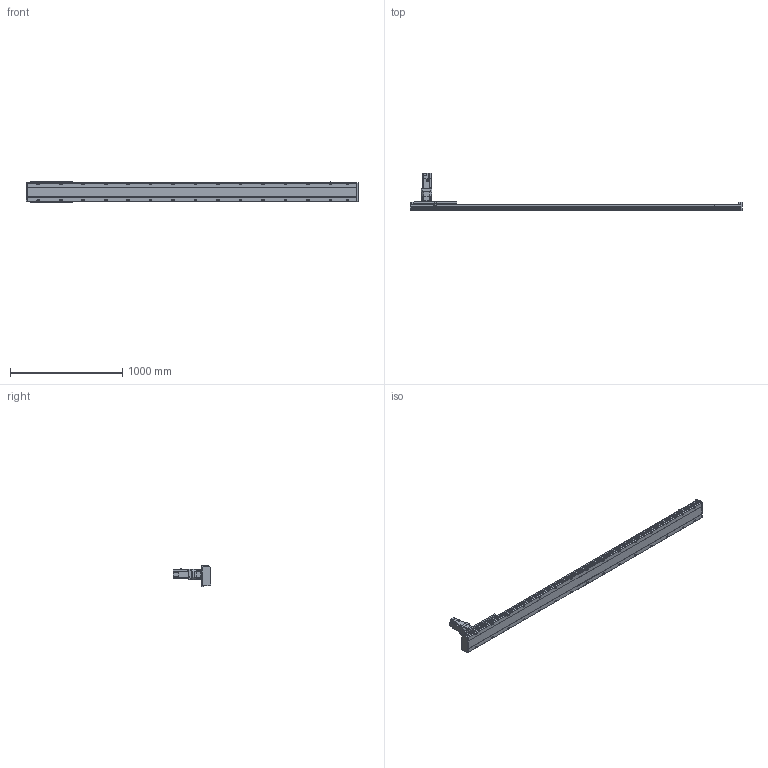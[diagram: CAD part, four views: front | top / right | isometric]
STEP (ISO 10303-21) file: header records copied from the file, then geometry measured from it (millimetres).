
FILE_DESCRIPTION(/* description */ ('STEP AP203'),/* implementation_level */ '2;1');
FILE_NAME(/* name */ 'SHS17A-L13-S2500-BC-T75-C1-N(0)',/* time_stamp */ '2023-03-27T08:58:12+02:00',/* author */ ('License CC BY-ND 4.0'),/* organization */ ('CADENAS'),/* preprocessor_version */ 'ST-DEVELOPER v19.3',/* originating_system */ 'PARTsolutions',/* authorisation */ ' ');
FILE_SCHEMA (('CONFIG_CONTROL_DESIGN'));
Length unit declared in the file: millimetre
Products named in the file (7): SHS17A-L13-S2500-BC-T75-C1-N(0); PSC140-sensor; SHS17A-S2500(0)_body2; T75-p1; SHS17A-S2500_body3; SHS17A-S2500-C1(0)_slider; SHS17A-S2500-C1(0)_body
Assembly tree (13 placements, depth 2):
  SHS17A-L13-S2500-BC-T75-C1-N(0)
    PSC140-sensor  x3
    SHS17A-S2500(0)_body2  x6
    T75-p1
    SHS17A-S2500_body3
    SHS17A-S2500-C1(0)_slider
    SHS17A-S2500-C1(0)_body
Bounding box: 2954 x 333.8 x 193.4 mm (x, y, z)
Volume: 21147188.3 mm3; surface area: 2457736.5 mm2
Topology: 13 solids, 13 shells, 2136 faces, 5426 edges, 3535 vertices
Faces by surface type: plane 1364, cylinder 685, cone 84, torus 3
Full cylindrical faces by diameter (mm): 2.8 x3, 4.134 x24, 4.5 x2, 4.6 x3, 4.917 x15, 5.5 x48, 6 x7, 6.5 x24, 6.647 x38, 6.8 x9, 8 x3, 8.5 x30, 10 x28, 11 x4, 14 x30, 22 x1, 24 x1, 24.2 x1, 28 x1, 28.2 x1, 28.8 x1, 29.8 x1, 48.542 x1, 68 x1, 70 x1, 78 x1, 80 x2
Entity records: 40794 total; most frequent: CARTESIAN_POINT 7938, DIRECTION 6673, ORIENTED_EDGE 6420, EDGE_CURVE 3210, AXIS2_PLACEMENT_3D 2352, VERTEX_POINT 2257, LINE 1969, VECTOR 1969
